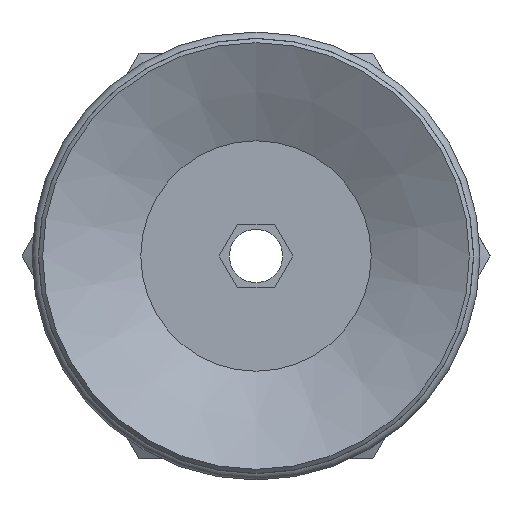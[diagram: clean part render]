
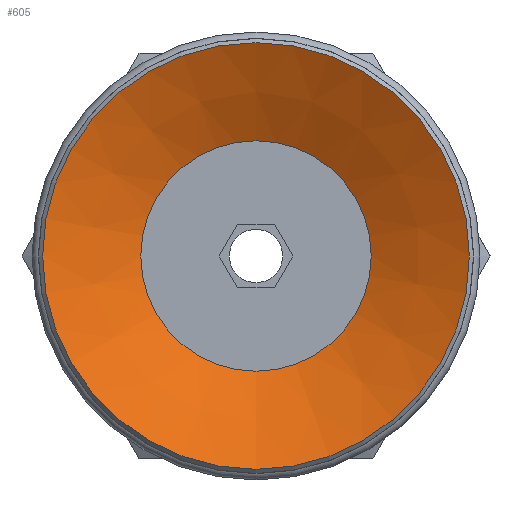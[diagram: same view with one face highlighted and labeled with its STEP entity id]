
A CAD part, front view. The second image highlights one B-rep face of the part: STEP entity #605.
In plain terms, the highlighted conical face has half-angle 63 degrees and reference radius 5.4 mm.
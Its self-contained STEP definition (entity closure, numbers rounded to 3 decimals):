
#605=ADVANCED_FACE('',(#859,#860),#861,.F.);
#859=FACE_BOUND('',#1166,.T.);
#860=FACE_OUTER_BOUND('',#1167,.T.);
#861=CONICAL_SURFACE('',#1168,5.4,1.1);
#1166=EDGE_LOOP('',(#1870));
#1167=EDGE_LOOP('',(#1871));
#1168=AXIS2_PLACEMENT_3D('',#1872,#1873,#1874);
#1870=ORIENTED_EDGE('',*,*,#2218,.F.);
#1871=ORIENTED_EDGE('',*,*,#2219,.T.);
#1872=CARTESIAN_POINT('',(0.0,5.518,0.0));
#1873=DIRECTION('',(-0.0,-1.0,0.));
#1874=DIRECTION('',(0.0,0.,-1.0));
#2218=EDGE_CURVE('',#2553,#2553,#2554,.T.);
#2219=EDGE_CURVE('',#2555,#2555,#2556,.T.);
#2553=VERTEX_POINT('',#3309);
#2554=CIRCLE('',#3310,5.4);
#2555=VERTEX_POINT('',#3311);
#2556=CIRCLE('',#3312,10.0);
#3309=CARTESIAN_POINT('',(0.0,5.518,-5.4));
#3310=AXIS2_PLACEMENT_3D('',#3671,#3672,#3673);
#3311=CARTESIAN_POINT('',(0.0,3.175,-10.0));
#3312=AXIS2_PLACEMENT_3D('',#3674,#3675,#3676);
#3671=CARTESIAN_POINT('',(0.0,5.518,0.0));
#3672=DIRECTION('',(0.0,-1.0,0.));
#3673=DIRECTION('',(0.0,0.,-1.0));
#3674=CARTESIAN_POINT('',(0.0,3.175,0.0));
#3675=DIRECTION('',(0.0,-1.0,0.));
#3676=DIRECTION('',(0.0,0.,-1.0));
